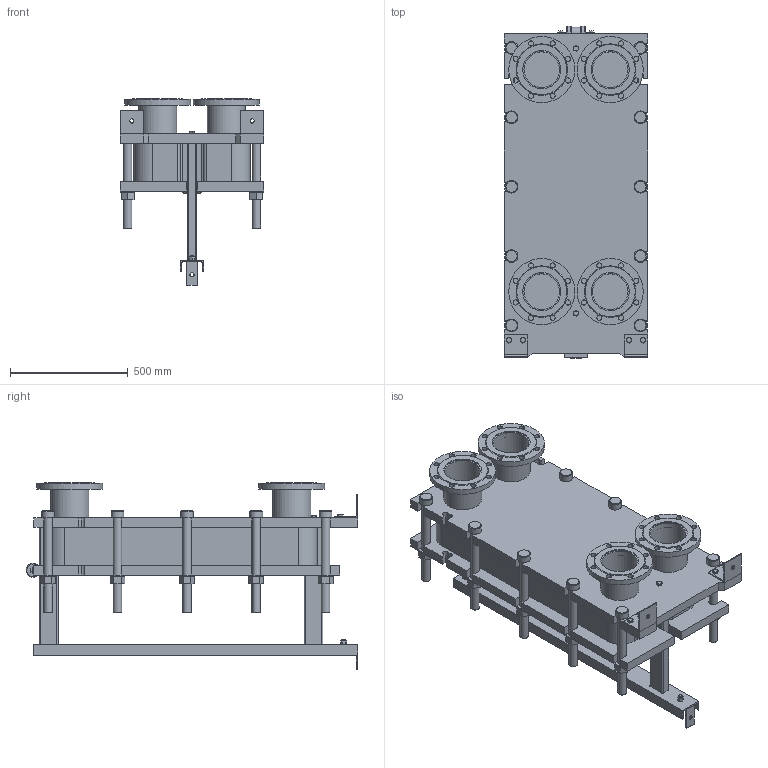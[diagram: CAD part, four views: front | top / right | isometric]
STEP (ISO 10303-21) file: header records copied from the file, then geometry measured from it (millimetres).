
FILE_DESCRIPTION(/* description */ (''),/* implementation_level */ '2;1');
FILE_NAME(/* name */ 'C:\Users\zhuro\Desktop\ENCO\TO\ЭН-041\ЭН-0,5-041-47-1.stp',/* time_stamp */ '2022-06-06T10:52:40+03:00',/* author */ ('zhuro'),/* organization */ (''),/* preprocessor_version */ 'ST-DEVELOPER v18.1',/* originating_system */ 'Autodesk Inventor 2022',/* authorisation */ '');
FILE_SCHEMA (('AUTOMOTIVE_DESIGN { 1 0 10303 214 3 1 1 }'));
Length unit declared in the file: millimetre
Products named in the file (1): ЭН-0,5-041-47-1
Bounding box: 610 x 1406.5 x 792.5 mm (x, y, z)
Volume: 167947911 mm3; surface area: 7855904.6 mm2
Topology: 52 solids, 52 shells, 711 faces, 1696 edges, 1094 vertices
Faces by surface type: plane 487, cylinder 177, cone 41, torus 6
Full cylindrical faces by diameter (mm): 8 x4, 10 x2, 16 x8, 18 x3, 22 x32, 36 x24, 50 x1, 54 x10, 60 x12, 151 x4, 161 x8, 280 x4
Entity records: 22667 total; most frequent: CARTESIAN_POINT 5230, DIRECTION 3644, ORIENTED_EDGE 3392, EDGE_CURVE 1696, AXIS2_PLACEMENT_3D 1272, LINE 1100, VECTOR 1100, VERTEX_POINT 1094
